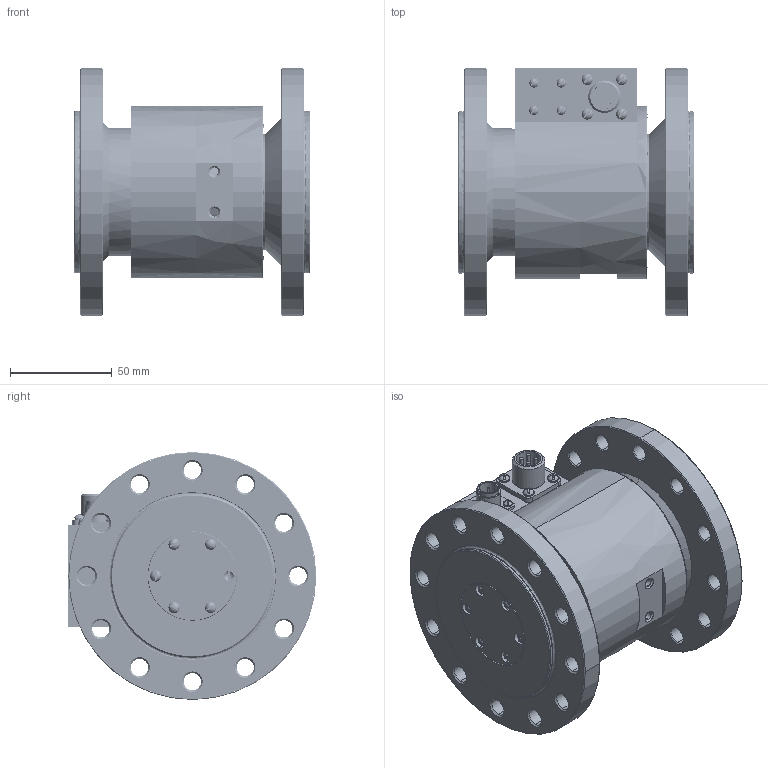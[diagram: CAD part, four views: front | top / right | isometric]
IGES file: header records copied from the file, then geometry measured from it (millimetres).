
Start section: SolidWorks IGES file using analytic representation for surfaces
Bounding box: 116 x 122.34 x 122 mm (x, y, z)
Surface area: 158904.2 mm2 (no closed solid volume)
Topology: 0 solids, 0 shells, 1239 faces, 22679 edges, 22632 vertices
Faces by surface type: revolution 885, bspline 354
